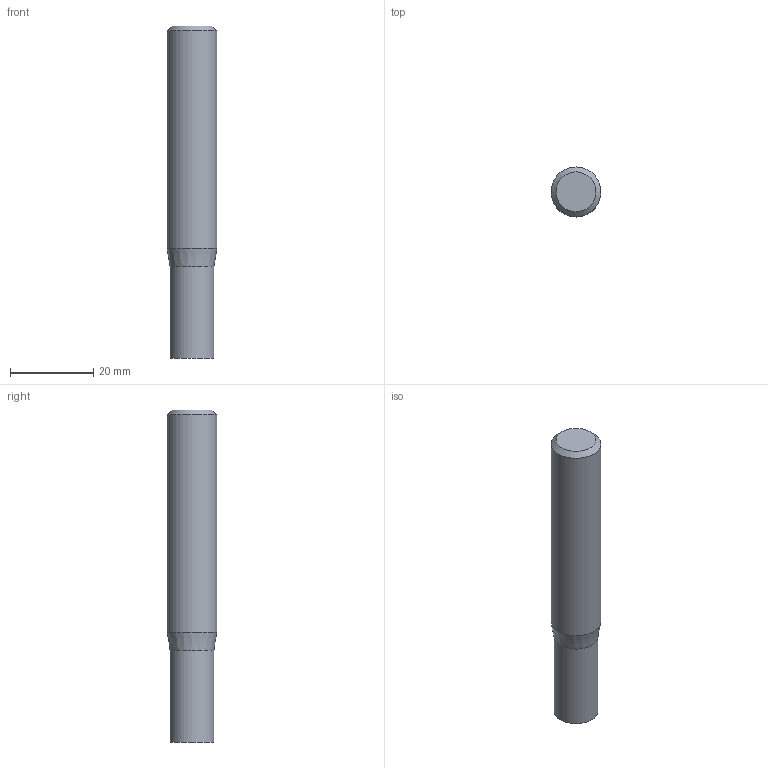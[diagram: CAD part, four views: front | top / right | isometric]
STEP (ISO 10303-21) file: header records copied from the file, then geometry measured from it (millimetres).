
FILE_DESCRIPTION((''),'2;1');
FILE_NAME('C:\Users\nsx150\AppData\Local\Temp\Mastercam 2021\98T1Q6BTT1\TEMP.step','2021-10-21T14:50:13',(''),(''),'STEP Write','Mastercam 2021 ... CNC Software, Inc.','');
FILE_SCHEMA(('AUTOMOTIVE_DESIGN'));
Length unit declared in the file: millimetre
Products named in the file (1): None
Bounding box: 12 x 12 x 80 mm (x, y, z)
Volume: 8419.7 mm3; surface area: 3260.9 mm2
Topology: 2 solids, 2 shells, 8 faces, 10 edges, 6 vertices
Faces by surface type: plane 4, cylinder 2, cone 2
Full cylindrical faces by diameter (mm): 10.6 x1, 12 x1
Entity records: 190 total; most frequent: DIRECTION 32, CARTESIAN_POINT 22, AXIS2_PLACEMENT_3D 16, ORIENTED_EDGE 12, EDGE_LOOP 12, STYLED_ITEM 11, ADVANCED_FACE 8, VERTEX_POINT 6
